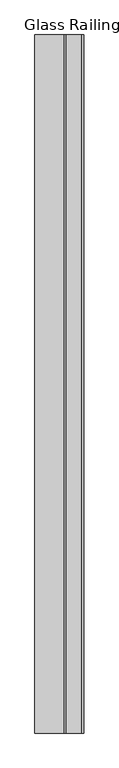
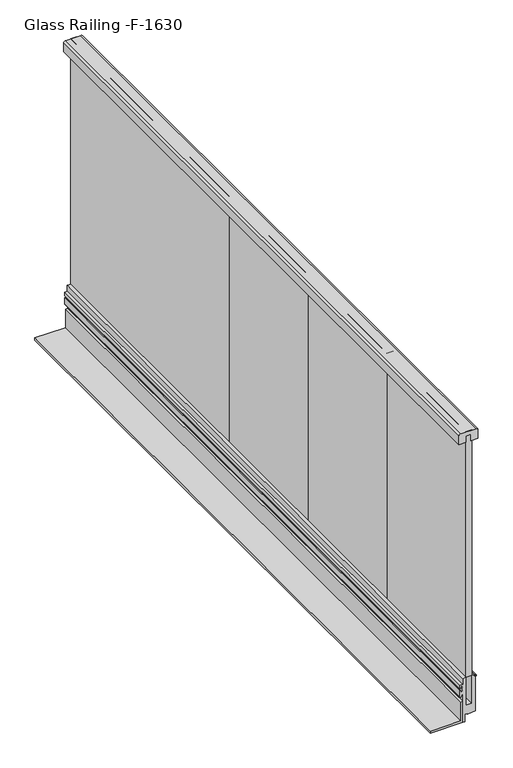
"""IFC4 building model written with IfcOpenShell, lengths in millimetres: railing geometry, Glass Railing -F-1630."""

from ifc_helpers import new_model, si_unit, point, frame, frame_2d, origin, place, context, project, spatial, polyline, circle_curve, trimmed, segment, composite_curve, outline, extrude, source, transform, mapped, element, save


def glass_railing_f_1630_7a8402d4(model_context):
    return source(origin(), model_context, "Body", "SweptSolid", [
        extrude(outline(composite_curve([segment(trimmed(circle_curve(frame_2d((100.7658604, 26488.9085452)), 2.0), [point((100.7658604, 26486.9085452))], [point((99.7658604, 26490.640596))], False, "CARTESIAN"), True, "CONTINUOUS"), segment(polyline([(99.7658604, 26490.640596), (113.11537, 26498.3479389), (0.0, 26498.3479389), (0.0, 26505.5479389), (28.0, 26505.5479389), (28.0, 26513.7479389), (26.0, 26513.7479389), (26.0, 26517.1318494), (29.2397123, 26543.6481902), (158.9711821, 26543.6481902), (161.74, 26546.9479389), (166.94, 26546.9479389), (166.94, 26543.6479389), (163.6691386, 26543.6479389), (165.44, 26539.1470787), (169.04, 26539.1470787), (169.04, 26530.8951835), (61.6399997, 26530.8951835), (61.6399997, 26509.3751835), (168.9987809, 26509.3751835), (168.9987809, 26496.9085452), (146.9987809, 26496.9085452), (146.9987809, 26486.9085452), (133.7037809, 26486.9085452), (133.7037809, 26490.9085452), (140.0287809, 26490.9085452), (140.0287809, 26493.6595464)]), True, "CONTINUOUS"), segment(trimmed(circle_curve(frame_2d((129.2037809, 26476.6280325)), 20.1805127), [point((140.0287809, 26493.6595464))], [point((118.3787809, 26493.6595464))], True, "CARTESIAN"), True, "CONTINUOUS"), segment(polyline([(118.3787809, 26493.6595464), (118.3787809, 26490.9085452), (124.7037809, 26490.9085452), (124.7037809, 26486.9085452), (100.7658604, 26486.9085452)]), True, "CONTINUOUS")], self_intersect=False)), frame((0.0, -3620.8193113, 0.0), z_axis=(0.0, 1.0, 0.0), x_axis=(0.0, 0.0, 1.0)), (0.0, 0.0, 1.0), 2500.0),
        extrude(outline(polyline([(0.0, 26498.3479389), (80.0, 26498.3479389), (80.0, 26490.3479389), (8.0, 26490.3479389), (8.0, 26378.3479389), (0.0, 26378.3479389), (0.0, 26498.3479389)])), frame((0.0, -3620.8193113, 0.0), z_axis=(0.0, 1.0, 0.0), x_axis=(0.0, 0.0, 1.0)), (0.0, 0.0, 1.0), 2500.0),
        extrude(outline(composite_curve([segment(trimmed(circle_curve(frame_2d((1108.7073263, 26490.3479389)), 7.0), [point((1115.7073263, 26490.3479389))], [point((1108.7073263, 26483.3479389))], False, "CARTESIAN"), True, "CONTINUOUS"), segment(polyline([(1108.7073263, 26483.3479389), (1075.7073263, 26483.3479389), (1075.7073263, 26509.1737399), (1100.0, 26509.1737399), (1100.0, 26527.4937297), (1075.7073263, 26527.4937297), (1075.7073263, 26553.3479389), (1108.7073263, 26553.3479389)]), True, "CONTINUOUS"), segment(trimmed(circle_curve(frame_2d((1108.7073263, 26546.3479389)), 7.0), [point((1108.7073263, 26553.3479389))], [point((1115.7073263, 26546.3479389))], False, "CARTESIAN"), True, "CONTINUOUS"), segment(polyline([(1115.7073263, 26546.3479389), (1115.7073263, 26490.3479389)]), True, "CONTINUOUS")], self_intersect=False)), frame((0.0, -3620.8193113, 0.0), z_axis=(0.0, 1.0, 0.0), x_axis=(0.0, 0.0, 1.0)), (0.0, 0.0, 1.0), 2500.0),
        extrude(outline(polyline([(26509.3479389, -2120.8193113), (26509.3479389, -1120.8193113), (26530.8479389, -1120.8193113), (26530.8479389, -2120.8193113), (26509.3479389, -2120.8193113)])), frame((0.0, 0.0, 169.04), z_axis=(0.0, 0.0, 1.0), x_axis=(1.0, 0.0, 0.0)), (0.0, 0.0, 1.0), 946.76),
        extrude(outline(polyline([(26509.3479389, -2620.8193113), (26509.3479389, -1620.8193113), (26530.8479389, -1620.8193113), (26530.8479389, -2620.8193113), (26509.3479389, -2620.8193113)])), frame((0.0, 0.0, 169.04), z_axis=(0.0, 0.0, 1.0), x_axis=(1.0, 0.0, 0.0)), (0.0, 0.0, 1.0), 946.76),
        extrude(outline(polyline([(26509.3479389, -3120.8193113), (26509.3479389, -2120.8193113), (26530.8479389, -2120.8193113), (26530.8479389, -3120.8193113), (26509.3479389, -3120.8193113)])), frame((0.0, 0.0, 169.04), z_axis=(0.0, 0.0, 1.0), x_axis=(1.0, 0.0, 0.0)), (0.0, 0.0, 1.0), 946.76),
        extrude(outline(polyline([(26509.3479389, -3620.8193113), (26509.3479389, -2620.8193113), (26530.8479389, -2620.8193113), (26530.8479389, -3620.8193113), (26509.3479389, -3620.8193113)])), frame((0.0, 0.0, 169.04), z_axis=(0.0, 0.0, 1.0), x_axis=(1.0, 0.0, 0.0)), (0.0, 0.0, 1.0), 946.76),
    ])


if __name__ == "__main__":
    model = new_model("IFC4")
    model_context = context("Model", 3, world=origin())
    ifc_project = project(units=[si_unit("LENGTHUNIT", "METRE", prefix="MILLI")], contexts=[model_context])
    site = spatial("IfcSite", under=ifc_project)
    building = spatial("IfcBuilding", under=site)
    placement = place(None, origin())
    glass_railing_f_1630_shape = glass_railing_f_1630_7a8402d4(model_context)
    element("IfcRailing", 1, ObjectType="Glass Railing -F-1630", at=placement, inside=building, context=model_context, shape_type="MappedRepresentation", body=[
        mapped(glass_railing_f_1630_shape, transform((0.0, 0.0, 0.0), x_axis=(1.0, 0.0, 0.0), y_axis=(0.0, 1.0, 0.0), z_axis=(0.0, 0.0, 1.0))),
    ])
    save(model, "model.ifc")
